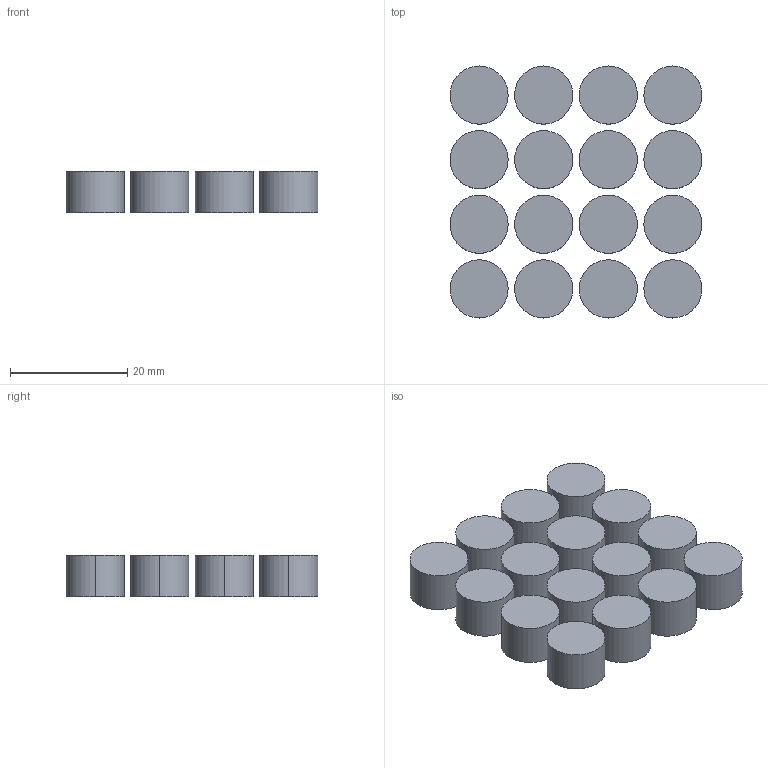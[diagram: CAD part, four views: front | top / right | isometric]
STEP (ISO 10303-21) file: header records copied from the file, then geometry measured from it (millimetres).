
FILE_DESCRIPTION (( 'STEP AP203' ), '1' );
FILE_NAME ('REF_16_emitters.step', '2026-09-30T11:36:47', ( '' ), ( '' ), 'SwSTEP 2.0', 'SolidWorks 2025', '' );
FILE_SCHEMA (( 'CONFIG_CONTROL_DESIGN' ));
Length unit declared in the file: millimetre
Products named in the file (1): REF_16_emitters
Bounding box: 42.9 x 42.9 x 7.1 mm (x, y, z)
Volume: 8744.6 mm3; surface area: 5996.4 mm2
Topology: 16 solids, 16 shells, 64 faces, 96 edges, 64 vertices
Faces by surface type: cylinder 32, plane 32
Entity records: 1491 total; most frequent: DIRECTION 290, CARTESIAN_POINT 225, ORIENTED_EDGE 192, AXIS2_PLACEMENT_3D 129, EDGE_CURVE 96, FACE_OUTER_BOUND 64, VERTEX_POINT 64, ADVANCED_FACE 64
